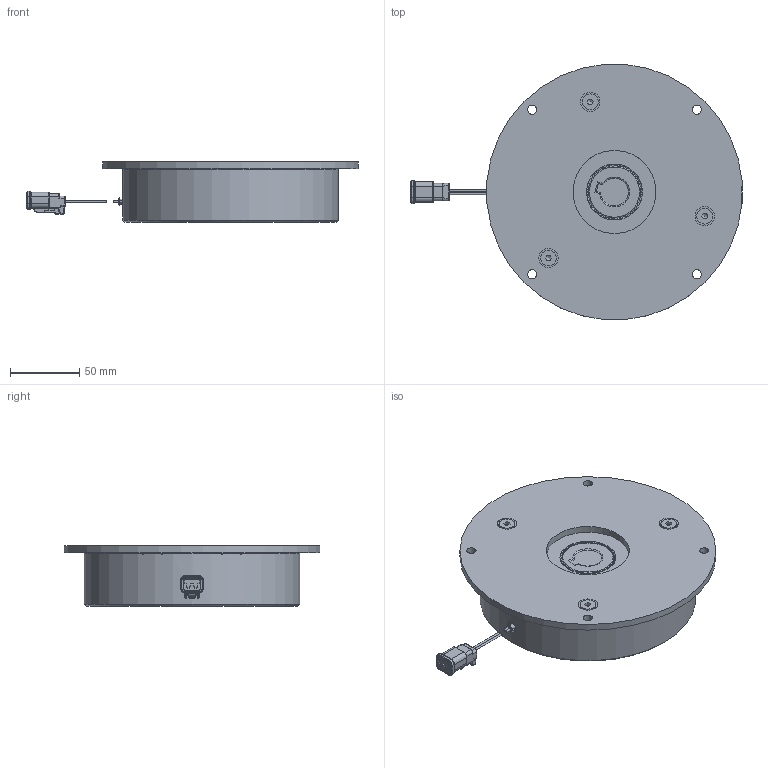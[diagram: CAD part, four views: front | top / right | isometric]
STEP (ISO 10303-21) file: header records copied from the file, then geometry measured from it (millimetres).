
FILE_DESCRIPTION(/* description */ (''),/* implementation_level */ '2;1');
FILE_NAME(/* name */ 'C:\Users\Wehr\Desktop\ID33008216 Kundenmodell.stp',/* time_stamp */ '2019-08-21T08:55:24+02:00',/* author */ ('wehrl'),/* organization */ (''),/* preprocessor_version */ 'ST-DEVELOPER v17',/* originating_system */ 'Autodesk Inventor 2018',/* authorisation */ '');
FILE_SCHEMA (('AUTOMOTIVE_DESIGN { 1 0 10303 214 3 1 1 }'));
Length unit declared in the file: millimetre
Products named in the file (1): 5026835_IAM_000_Shrinkwrap_1
Bounding box: 239.94 x 184.3 x 43.74 mm (x, y, z)
Volume: 624445.6 mm3; surface area: 156430.4 mm2
Topology: 3 solids, 3 shells, 644 faces, 1914 edges, 1248 vertices
Faces by surface type: cylinder 371, plane 182, torus 54, cone 24, bspline 9, sphere 4
Full cylindrical faces by diameter (mm): 1.27 x2, 1.4 x4, 3.7 x1, 5 x2, 6 x3, 6.3 x1, 6.6 x7, 8.5 x2, 10 x2, 11.34 x3, 28.4 x1, 47.998 x1, 50 x1, 52 x1, 60 x1, 69.5 x2, 115 x1, 149 x1, 150 x2, 154 x2, 156 x1, 185 x1
Entity records: 23778 total; most frequent: CARTESIAN_POINT 5967, ORIENTED_EDGE 3810, DIRECTION 3420, EDGE_CURVE 1905, AXIS2_PLACEMENT_3D 1330, VERTEX_POINT 1248, LINE 760, VECTOR 760
